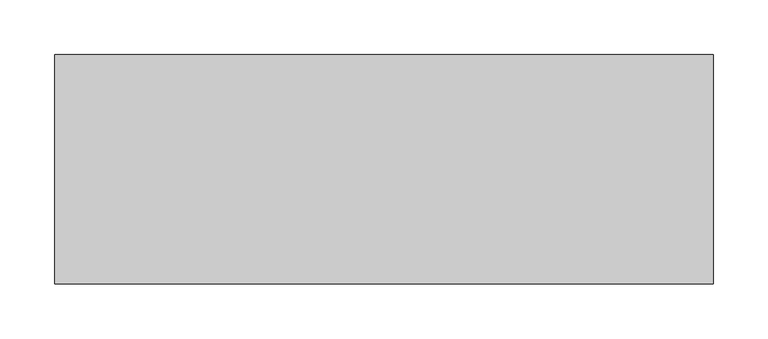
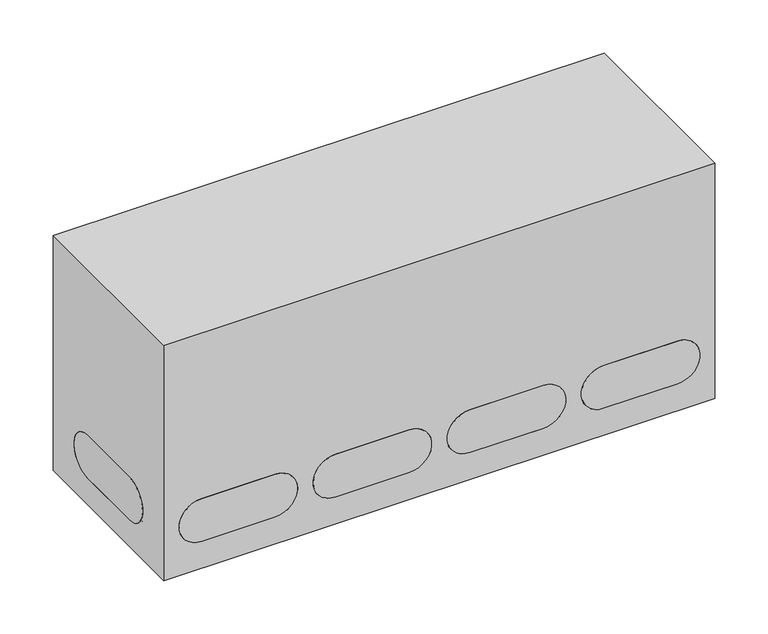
"""IFC4 building model written with IfcOpenShell, lengths in millimetres: duct fitting geometry, NLRS_57_DUF_UN_air distribution manifold oval #14_M&G : 350#14 - DN180 (H=270)."""

from ifc_helpers import new_model, si_unit, point, frame, frame_2d, origin, origin_with_axes, place, context, project, spatial, polyline, circle_curve, trimmed, segment, composite_curve, outline, extrude, source, transform, mapped, element, save
from ifc_brep_helpers import plane_surface, revolved_surface, advanced_brep


def duct_fitting_c65a407a(model_context):
    return source(origin(), model_context, "Body", "SolidModel", [
        extrude(outline(composite_curve([segment(trimmed(circle_curve(frame_2d((-179.0, 40.0)), 24.5), [point((-179.0, 64.5))], [point((-179.0, 15.5))], False, "CARTESIAN"), True, "CONTINUOUS"), segment(polyline([(-179.0, 15.5), (-259.0, 15.5)]), True, "CONTINUOUS"), segment(trimmed(circle_curve(frame_2d((-259.0, 40.0)), 24.5), [point((-259.0, 15.5))], [point((-259.0, 64.5))], False, "CARTESIAN"), True, "CONTINUOUS"), segment(polyline([(-259.0, 64.5), (-179.0, 64.5)]), True, "CONTINUOUS")], self_intersect=False)), origin_with_axes(), (0.0, 0.0, 1.0), 5.0),
        extrude(outline(composite_curve([segment(trimmed(circle_curve(frame_2d((-179.0, -40.0)), 24.5), [point((-179.0, -15.5))], [point((-179.0, -64.5))], False, "CARTESIAN"), True, "CONTINUOUS"), segment(polyline([(-179.0, -64.5), (-259.0, -64.5)]), True, "CONTINUOUS"), segment(trimmed(circle_curve(frame_2d((-259.0, -40.0)), 24.5), [point((-259.0, -64.5))], [point((-259.0, -15.5))], False, "CARTESIAN"), True, "CONTINUOUS"), segment(polyline([(-259.0, -15.5), (-179.0, -15.5)]), True, "CONTINUOUS")], self_intersect=False)), origin_with_axes(), (0.0, 0.0, 1.0), 5.0),
        extrude(outline(composite_curve([segment(trimmed(circle_curve(frame_2d((-33.0, 40.0)), 24.5), [point((-33.0, 64.5))], [point((-33.0, 15.5))], False, "CARTESIAN"), True, "CONTINUOUS"), segment(polyline([(-33.0, 15.5), (-113.0, 15.5)]), True, "CONTINUOUS"), segment(trimmed(circle_curve(frame_2d((-113.0, 40.0)), 24.5), [point((-113.0, 15.5))], [point((-113.0, 64.5))], False, "CARTESIAN"), True, "CONTINUOUS"), segment(polyline([(-113.0, 64.5), (-33.0, 64.5)]), True, "CONTINUOUS")], self_intersect=False)), origin_with_axes(), (0.0, 0.0, 1.0), 5.0),
        extrude(outline(composite_curve([segment(trimmed(circle_curve(frame_2d((-33.0, -40.0)), 24.5), [point((-33.0, -15.5))], [point((-33.0, -64.5))], False, "CARTESIAN"), True, "CONTINUOUS"), segment(polyline([(-33.0, -64.5), (-113.0, -64.5)]), True, "CONTINUOUS"), segment(trimmed(circle_curve(frame_2d((-113.0, -40.0)), 24.5), [point((-113.0, -64.5))], [point((-113.0, -15.5))], False, "CARTESIAN"), True, "CONTINUOUS"), segment(polyline([(-113.0, -15.5), (-33.0, -15.5)]), True, "CONTINUOUS")], self_intersect=False)), origin_with_axes(), (0.0, 0.0, 1.0), 5.0),
        extrude(outline(composite_curve([segment(trimmed(circle_curve(frame_2d((113.0, 40.0)), 24.5), [point((113.0, 64.5))], [point((113.0, 15.5))], False, "CARTESIAN"), True, "CONTINUOUS"), segment(polyline([(113.0, 15.5), (33.0, 15.5)]), True, "CONTINUOUS"), segment(trimmed(circle_curve(frame_2d((33.0, 40.0)), 24.5), [point((33.0, 15.5))], [point((33.0, 64.5))], False, "CARTESIAN"), True, "CONTINUOUS"), segment(polyline([(33.0, 64.5), (113.0, 64.5)]), True, "CONTINUOUS")], self_intersect=False)), origin_with_axes(), (0.0, 0.0, 1.0), 5.0),
        extrude(outline(composite_curve([segment(trimmed(circle_curve(frame_2d((113.0, -40.0)), 24.5), [point((113.0, -15.5))], [point((113.0, -64.5))], False, "CARTESIAN"), True, "CONTINUOUS"), segment(polyline([(113.0, -64.5), (33.0, -64.5)]), True, "CONTINUOUS"), segment(trimmed(circle_curve(frame_2d((33.0, -40.0)), 24.5), [point((33.0, -64.5))], [point((33.0, -15.5))], False, "CARTESIAN"), True, "CONTINUOUS"), segment(polyline([(33.0, -15.5), (113.0, -15.5)]), True, "CONTINUOUS")], self_intersect=False)), origin_with_axes(), (0.0, 0.0, 1.0), 5.0),
        extrude(outline(composite_curve([segment(trimmed(circle_curve(frame_2d((259.0, 40.0)), 24.5), [point((259.0, 64.5))], [point((259.0, 15.5))], False, "CARTESIAN"), True, "CONTINUOUS"), segment(polyline([(259.0, 15.5), (179.0, 15.5)]), True, "CONTINUOUS"), segment(trimmed(circle_curve(frame_2d((179.0, 40.0)), 24.5), [point((179.0, 15.5))], [point((179.0, 64.5))], False, "CARTESIAN"), True, "CONTINUOUS"), segment(polyline([(179.0, 64.5), (259.0, 64.5)]), True, "CONTINUOUS")], self_intersect=False)), origin_with_axes(), (0.0, 0.0, 1.0), 5.0),
        extrude(outline(composite_curve([segment(trimmed(circle_curve(frame_2d((259.0, -40.0)), 24.5), [point((259.0, -15.5))], [point((259.0, -64.5))], False, "CARTESIAN"), True, "CONTINUOUS"), segment(polyline([(259.0, -64.5), (179.0, -64.5)]), True, "CONTINUOUS"), segment(trimmed(circle_curve(frame_2d((179.0, -40.0)), 24.5), [point((179.0, -64.5))], [point((179.0, -15.5))], False, "CARTESIAN"), True, "CONTINUOUS"), segment(polyline([(179.0, -15.5), (259.0, -15.5)]), True, "CONTINUOUS")], self_intersect=False)), origin_with_axes(), (0.0, 0.0, 1.0), 5.0),
        extrude(outline(composite_curve([segment(polyline([(-40.0, 80.0), (40.0, 80.0)]), True, "CONTINUOUS"), segment(trimmed(circle_curve(frame_2d((40.0, 55.5)), 24.5), [point((40.0, 80.0))], [point((40.0, 31.0))], False, "CARTESIAN"), True, "CONTINUOUS"), segment(polyline([(40.0, 31.0), (-40.0, 31.0)]), True, "CONTINUOUS"), segment(trimmed(circle_curve(frame_2d((-40.0, 55.5)), 24.5), [point((-40.0, 31.0))], [point((-40.0, 80.0))], False, "CARTESIAN"), True, "CONTINUOUS")], self_intersect=False)), frame((-300.0, 0.0, 0.0), z_axis=(1.0, 0.0, 0.0), x_axis=(0.0, 1.0, 0.0)), (0.0, 0.0, 1.0), 5.0),
        extrude(outline(composite_curve([segment(polyline([(80.0, -179.0), (80.0, -259.0)]), True, "CONTINUOUS"), segment(trimmed(circle_curve(frame_2d((55.5, -259.0)), 24.5), [point((80.0, -259.0))], [point((31.0, -259.0))], False, "CARTESIAN"), True, "CONTINUOUS"), segment(polyline([(31.0, -259.0), (31.0, -179.0)]), True, "CONTINUOUS"), segment(trimmed(circle_curve(frame_2d((55.5, -179.0)), 24.5), [point((31.0, -179.0))], [point((80.0, -179.0))], False, "CARTESIAN"), True, "CONTINUOUS")], self_intersect=False)), frame((0.0, -104.5, 0.0), z_axis=(0.0, 1.0, 0.0), x_axis=(0.0, 0.0, 1.0)), (0.0, 0.0, 1.0), 5.0),
        extrude(outline(composite_curve([segment(polyline([(80.0, -33.0), (80.0, -113.0)]), True, "CONTINUOUS"), segment(trimmed(circle_curve(frame_2d((55.5, -113.0)), 24.5), [point((80.0, -113.0))], [point((31.0, -113.0))], False, "CARTESIAN"), True, "CONTINUOUS"), segment(polyline([(31.0, -113.0), (31.0, -33.0)]), True, "CONTINUOUS"), segment(trimmed(circle_curve(frame_2d((55.5, -33.0)), 24.5), [point((31.0, -33.0))], [point((80.0, -33.0))], False, "CARTESIAN"), True, "CONTINUOUS")], self_intersect=False)), frame((0.0, -104.5, 0.0), z_axis=(0.0, 1.0, 0.0), x_axis=(0.0, 0.0, 1.0)), (0.0, 0.0, 1.0), 5.0),
        extrude(outline(composite_curve([segment(polyline([(80.0, 113.0), (80.0, 33.0)]), True, "CONTINUOUS"), segment(trimmed(circle_curve(frame_2d((55.5, 33.0)), 24.5), [point((80.0, 33.0))], [point((31.0, 33.0))], False, "CARTESIAN"), True, "CONTINUOUS"), segment(polyline([(31.0, 33.0), (31.0, 113.0)]), True, "CONTINUOUS"), segment(trimmed(circle_curve(frame_2d((55.5, 113.0)), 24.5), [point((31.0, 113.0))], [point((80.0, 113.0))], False, "CARTESIAN"), True, "CONTINUOUS")], self_intersect=False)), frame((0.0, -104.5, 0.0), z_axis=(0.0, 1.0, 0.0), x_axis=(0.0, 0.0, 1.0)), (0.0, 0.0, 1.0), 5.0),
        extrude(outline(composite_curve([segment(polyline([(80.0, 259.0), (80.0, 179.0)]), True, "CONTINUOUS"), segment(trimmed(circle_curve(frame_2d((55.5, 179.0)), 24.5), [point((80.0, 179.0))], [point((31.0, 179.0))], False, "CARTESIAN"), True, "CONTINUOUS"), segment(polyline([(31.0, 179.0), (31.0, 259.0)]), True, "CONTINUOUS"), segment(trimmed(circle_curve(frame_2d((55.5, 259.0)), 24.5), [point((31.0, 259.0))], [point((80.0, 259.0))], False, "CARTESIAN"), True, "CONTINUOUS")], self_intersect=False)), frame((0.0, -104.5, 0.0), z_axis=(0.0, 1.0, 0.0), x_axis=(0.0, 0.0, 1.0)), (0.0, 0.0, 1.0), 5.0),
        extrude(outline(composite_curve([segment(polyline([(-40.0, 80.0), (40.0, 80.0)]), True, "CONTINUOUS"), segment(trimmed(circle_curve(frame_2d((40.0, 55.5)), 24.5), [point((40.0, 80.0))], [point((40.0, 31.0))], False, "CARTESIAN"), True, "CONTINUOUS"), segment(polyline([(40.0, 31.0), (-40.0, 31.0)]), True, "CONTINUOUS"), segment(trimmed(circle_curve(frame_2d((-40.0, 55.5)), 24.5), [point((-40.0, 31.0))], [point((-40.0, 80.0))], False, "CARTESIAN"), True, "CONTINUOUS")], self_intersect=False)), frame((295.0, 0.0, 0.0), z_axis=(1.0, 0.0, 0.0), x_axis=(0.0, 1.0, 0.0)), (0.0, 0.0, 1.0), 5.0),
        advanced_brep(
        [(300.0, 104.5, 271.0), (-300.0, 104.5, 271.0), (-300.0, -104.5, 271.0), (300.0, -104.5, 271.0), (300.0, 104.5, 0.0), (300.0, -104.5, 0.0), (-300.0, -104.5, 0.0), (-300.0, 104.5, 0.0), (-179.0, 64.5, 0.0), (-259.0, 64.5, 0.0), (-259.0, 15.5, 0.0), (-179.0, 15.5, 0.0), (-179.0, -15.5, 0.0), (-259.0, -15.5, 0.0), (-259.0, -64.5, 0.0), (-179.0, -64.5, 0.0), (-33.0, 64.5, 0.0), (-113.0, 64.5, 0.0), (-113.0, 15.5, 0.0), (-33.0, 15.5, 0.0), (-33.0, -15.5, 0.0), (-113.0, -15.5, 0.0), (-113.0, -64.5, 0.0), (-33.0, -64.5, 0.0), (113.0, 64.5, 0.0), (33.0, 64.5, 0.0), (33.0, 15.5, 0.0), (113.0, 15.5, 0.0), (113.0, -15.5, 0.0), (33.0, -15.5, 0.0), (33.0, -64.5, 0.0), (113.0, -64.5, 0.0), (259.0, 64.5, 0.0), (179.0, 64.5, 0.0), (179.0, 15.5, 0.0), (259.0, 15.5, 0.0), (259.0, -15.5, 0.0), (179.0, -15.5, 0.0), (179.0, -64.5, 0.0), (259.0, -64.5, 0.0), (-300.0, 40.0, 80.0), (-300.0, -40.0, 80.0), (-300.0, -40.0, 31.0), (-300.0, 40.0, 31.0), (-259.0, -104.5, 80.0), (-179.0, -104.5, 80.0), (-179.0, -104.5, 31.0), (-259.0, -104.5, 31.0), (-113.0, -104.5, 80.0), (-33.0, -104.5, 80.0), (-33.0, -104.5, 31.0), (-113.0, -104.5, 31.0), (33.0, -104.5, 80.0), (113.0, -104.5, 80.0), (113.0, -104.5, 31.0), (33.0, -104.5, 31.0), (179.0, -104.5, 80.0), (259.0, -104.5, 80.0), (259.0, -104.5, 31.0), (179.0, -104.5, 31.0), (300.0, -40.0, 80.0), (300.0, 40.0, 80.0), (300.0, 40.0, 31.0), (300.0, -40.0, 31.0), (-179.0, 64.5, 5.0), (-179.0, 15.5, 5.0), (-259.0, 15.5, 5.0), (-259.0, 64.5, 5.0), (-179.0, -15.5, 5.0), (-179.0, -64.5, 5.0), (-259.0, -64.5, 5.0), (-259.0, -15.5, 5.0), (-33.0, 64.5, 5.0), (-33.0, 15.5, 5.0), (-113.0, 15.5, 5.0), (-113.0, 64.5, 5.0), (-33.0, -15.5, 5.0), (-33.0, -64.5, 5.0), (-113.0, -64.5, 5.0), (-113.0, -15.5, 5.0), (113.0, 64.5, 5.0), (113.0, 15.5, 5.0), (33.0, 15.5, 5.0), (33.0, 64.5, 5.0), (113.0, -15.5, 5.0), (113.0, -64.5, 5.0), (33.0, -64.5, 5.0), (33.0, -15.5, 5.0), (259.0, 64.5, 5.0), (259.0, 15.5, 5.0), (179.0, 15.5, 5.0), (179.0, 64.5, 5.0), (259.0, -15.5, 5.0), (259.0, -64.5, 5.0), (179.0, -64.5, 5.0), (179.0, -15.5, 5.0), (-179.0, -99.5, 80.0), (-259.0, -99.5, 80.0), (-259.0, -99.5, 31.0), (-179.0, -99.5, 31.0), (-33.0, -99.5, 80.0), (-113.0, -99.5, 80.0), (-113.0, -99.5, 31.0), (-33.0, -99.5, 31.0), (113.0, -99.5, 80.0), (33.0, -99.5, 80.0), (33.0, -99.5, 31.0), (113.0, -99.5, 31.0), (259.0, -99.5, 80.0), (179.0, -99.5, 80.0), (179.0, -99.5, 31.0), (259.0, -99.5, 31.0), (294.0, -40.0, 80.0), (294.0, -40.0, 31.0), (294.0, 40.0, 31.0), (294.0, 40.0, 80.0), (-294.0, -40.0, 80.0), (-294.0, 40.0, 80.0), (-294.0, 40.0, 31.0), (-294.0, -40.0, 31.0)],
        [
            (0, 1),
            (1, 2),
            (2, 3),
            (3, 0),
            (4, 5),
            (5, 6),
            (6, 7),
            (7, 4),
            (8, 9),
            (9, 10, circle_curve(frame((-259.0, 40.0, 0.0), z_axis=(0.0, 0.0, 1.0), x_axis=(1.0, 0.0, 0.0)), 24.5)),
            (10, 11),
            (11, 8, circle_curve(frame((-179.0, 40.0, 0.0), z_axis=(0.0, 0.0, 1.0), x_axis=(1.0, 0.0, 0.0)), 24.5)),
            (12, 13),
            (13, 14, circle_curve(frame((-259.0, -40.0, 0.0), z_axis=(0.0, 0.0, 1.0), x_axis=(1.0, 0.0, 0.0)), 24.5)),
            (14, 15),
            (15, 12, circle_curve(frame((-179.0, -40.0, 0.0), z_axis=(0.0, 0.0, 1.0), x_axis=(1.0, 0.0, 0.0)), 24.5)),
            (16, 17),
            (17, 18, circle_curve(frame((-113.0, 40.0, 0.0), z_axis=(0.0, 0.0, 1.0), x_axis=(1.0, 0.0, 0.0)), 24.5)),
            (18, 19),
            (19, 16, circle_curve(frame((-33.0, 40.0, 0.0), z_axis=(0.0, 0.0, 1.0), x_axis=(1.0, 0.0, 0.0)), 24.5)),
            (20, 21),
            (21, 22, circle_curve(frame((-113.0, -40.0, 0.0), z_axis=(0.0, 0.0, 1.0), x_axis=(1.0, 0.0, 0.0)), 24.5)),
            (22, 23),
            (23, 20, circle_curve(frame((-33.0, -40.0, 0.0), z_axis=(0.0, 0.0, 1.0), x_axis=(1.0, 0.0, 0.0)), 24.5)),
            (24, 25),
            (25, 26, circle_curve(frame((33.0, 40.0, 0.0), z_axis=(0.0, 0.0, 1.0), x_axis=(1.0, 0.0, 0.0)), 24.5)),
            (26, 27),
            (27, 24, circle_curve(frame((113.0, 40.0, 0.0), z_axis=(0.0, 0.0, 1.0), x_axis=(1.0, 0.0, 0.0)), 24.5)),
            (28, 29),
            (29, 30, circle_curve(frame((33.0, -40.0, 0.0), z_axis=(0.0, 0.0, 1.0), x_axis=(1.0, 0.0, 0.0)), 24.5)),
            (30, 31),
            (31, 28, circle_curve(frame((113.0, -40.0, 0.0), z_axis=(0.0, 0.0, 1.0), x_axis=(1.0, 0.0, 0.0)), 24.5)),
            (32, 33),
            (33, 34, circle_curve(frame((179.0, 40.0, 0.0), z_axis=(0.0, 0.0, 1.0), x_axis=(1.0, 0.0, 0.0)), 24.5)),
            (34, 35),
            (35, 32, circle_curve(frame((259.0, 40.0, 0.0), z_axis=(0.0, 0.0, 1.0), x_axis=(1.0, 0.0, 0.0)), 24.5)),
            (36, 37),
            (37, 38, circle_curve(frame((179.0, -40.0, 0.0), z_axis=(0.0, 0.0, 1.0), x_axis=(1.0, 0.0, 0.0)), 24.5)),
            (38, 39),
            (39, 36, circle_curve(frame((259.0, -40.0, 0.0), z_axis=(0.0, 0.0, 1.0), x_axis=(1.0, 0.0, 0.0)), 24.5)),
            (0, 4),
            (7, 1),
            (6, 2),
            (40, 41),
            (41, 42, circle_curve(frame((-300.0, -40.0, 55.5), z_axis=(1.0, 0.0, 0.0), x_axis=(0.0, 1.0, 0.0)), 24.5)),
            (42, 43),
            (43, 40, circle_curve(frame((-300.0, 40.0, 55.5), z_axis=(1.0, 0.0, 0.0), x_axis=(0.0, 1.0, 0.0)), 24.5)),
            (5, 3),
            (44, 45),
            (45, 46, circle_curve(frame((-179.0, -104.5, 55.5), z_axis=(0.0, 1.0, 0.0), x_axis=(-1.0, 0.0, 0.0)), 24.5)),
            (46, 47),
            (47, 44, circle_curve(frame((-259.0, -104.5, 55.5), z_axis=(0.0, 1.0, 0.0), x_axis=(-1.0, 0.0, 0.0)), 24.5)),
            (48, 49),
            (49, 50, circle_curve(frame((-33.0, -104.5, 55.5), z_axis=(0.0, 1.0, 0.0), x_axis=(-1.0, 0.0, 0.0)), 24.5)),
            (50, 51),
            (51, 48, circle_curve(frame((-113.0, -104.5, 55.5), z_axis=(0.0, 1.0, 0.0), x_axis=(-1.0, 0.0, 0.0)), 24.5)),
            (52, 53),
            (53, 54, circle_curve(frame((113.0, -104.5, 55.5), z_axis=(0.0, 1.0, 0.0), x_axis=(-1.0, 0.0, 0.0)), 24.5)),
            (54, 55),
            (55, 52, circle_curve(frame((33.0, -104.5, 55.5), z_axis=(0.0, 1.0, 0.0), x_axis=(-1.0, 0.0, 0.0)), 24.5)),
            (56, 57),
            (57, 58, circle_curve(frame((259.0, -104.5, 55.5), z_axis=(0.0, 1.0, 0.0), x_axis=(-1.0, 0.0, 0.0)), 24.5)),
            (58, 59),
            (59, 56, circle_curve(frame((179.0, -104.5, 55.5), z_axis=(0.0, 1.0, 0.0), x_axis=(-1.0, 0.0, 0.0)), 24.5)),
            (60, 61),
            (61, 62, circle_curve(frame((300.0, 40.0, 55.5), z_axis=(-1.0, 0.0, 0.0), x_axis=(0.0, -1.0, 0.0)), 24.5)),
            (62, 63),
            (63, 60, circle_curve(frame((300.0, -40.0, 55.5), z_axis=(-1.0, 0.0, 0.0), x_axis=(0.0, -1.0, 0.0)), 24.5)),
            (64, 65, circle_curve(frame((-179.0, 40.0, 5.0), z_axis=(0.0, 0.0, -1.0), x_axis=(1.0, 0.0, 0.0)), 24.5)),
            (65, 66),
            (66, 67, circle_curve(frame((-259.0, 40.0, 5.0), z_axis=(0.0, 0.0, -1.0), x_axis=(1.0, 0.0, 0.0)), 24.5)),
            (67, 64),
            (68, 69, circle_curve(frame((-179.0, -40.0, 5.0), z_axis=(0.0, 0.0, -1.0), x_axis=(1.0, 0.0, 0.0)), 24.5)),
            (69, 70),
            (70, 71, circle_curve(frame((-259.0, -40.0, 5.0), z_axis=(0.0, 0.0, -1.0), x_axis=(1.0, 0.0, 0.0)), 24.5)),
            (71, 68),
            (72, 73, circle_curve(frame((-33.0, 40.0, 5.0), z_axis=(0.0, 0.0, -1.0), x_axis=(1.0, 0.0, 0.0)), 24.5)),
            (73, 74),
            (74, 75, circle_curve(frame((-113.0, 40.0, 5.0), z_axis=(0.0, 0.0, -1.0), x_axis=(1.0, 0.0, 0.0)), 24.5)),
            (75, 72),
            (76, 77, circle_curve(frame((-33.0, -40.0, 5.0), z_axis=(0.0, 0.0, -1.0), x_axis=(1.0, 0.0, 0.0)), 24.5)),
            (77, 78),
            (78, 79, circle_curve(frame((-113.0, -40.0, 5.0), z_axis=(0.0, 0.0, -1.0), x_axis=(1.0, 0.0, 0.0)), 24.5)),
            (79, 76),
            (80, 81, circle_curve(frame((113.0, 40.0, 5.0), z_axis=(0.0, 0.0, -1.0), x_axis=(1.0, 0.0, 0.0)), 24.5)),
            (81, 82),
            (82, 83, circle_curve(frame((33.0, 40.0, 5.0), z_axis=(0.0, 0.0, -1.0), x_axis=(1.0, 0.0, 0.0)), 24.5)),
            (83, 80),
            (84, 85, circle_curve(frame((113.0, -40.0, 5.0), z_axis=(0.0, 0.0, -1.0), x_axis=(1.0, 0.0, 0.0)), 24.5)),
            (85, 86),
            (86, 87, circle_curve(frame((33.0, -40.0, 5.0), z_axis=(0.0, 0.0, -1.0), x_axis=(1.0, 0.0, 0.0)), 24.5)),
            (87, 84),
            (88, 89, circle_curve(frame((259.0, 40.0, 5.0), z_axis=(0.0, 0.0, -1.0), x_axis=(1.0, 0.0, 0.0)), 24.5)),
            (89, 90),
            (90, 91, circle_curve(frame((179.0, 40.0, 5.0), z_axis=(0.0, 0.0, -1.0), x_axis=(1.0, 0.0, 0.0)), 24.5)),
            (91, 88),
            (92, 93, circle_curve(frame((259.0, -40.0, 5.0), z_axis=(0.0, 0.0, -1.0), x_axis=(1.0, 0.0, 0.0)), 24.5)),
            (93, 94),
            (94, 95, circle_curve(frame((179.0, -40.0, 5.0), z_axis=(0.0, 0.0, -1.0), x_axis=(1.0, 0.0, 0.0)), 24.5)),
            (95, 92),
            (67, 9),
            (8, 64),
            (66, 10),
            (65, 11),
            (71, 13),
            (12, 68),
            (70, 14),
            (69, 15),
            (75, 17),
            (16, 72),
            (74, 18),
            (73, 19),
            (79, 21),
            (20, 76),
            (78, 22),
            (77, 23),
            (83, 25),
            (24, 80),
            (82, 26),
            (81, 27),
            (87, 29),
            (28, 84),
            (86, 30),
            (85, 31),
            (91, 33),
            (32, 88),
            (90, 34),
            (89, 35),
            (95, 37),
            (36, 92),
            (94, 38),
            (93, 39),
            (96, 97),
            (97, 98, circle_curve(frame((-259.0, -99.5, 55.5), z_axis=(0.0, -1.0, 0.0), x_axis=(-1.0, 0.0, 0.0)), 24.5)),
            (98, 99),
            (99, 96, circle_curve(frame((-179.0, -99.5, 55.5), z_axis=(0.0, -1.0, 0.0), x_axis=(-1.0, 0.0, 0.0)), 24.5)),
            (100, 101),
            (101, 102, circle_curve(frame((-113.0, -99.5, 55.5), z_axis=(0.0, -1.0, 0.0), x_axis=(-1.0, 0.0, 0.0)), 24.5)),
            (102, 103),
            (103, 100, circle_curve(frame((-33.0, -99.5, 55.5), z_axis=(0.0, -1.0, 0.0), x_axis=(-1.0, 0.0, 0.0)), 24.5)),
            (104, 105),
            (105, 106, circle_curve(frame((33.0, -99.5, 55.5), z_axis=(0.0, -1.0, 0.0), x_axis=(-1.0, 0.0, 0.0)), 24.5)),
            (106, 107),
            (107, 104, circle_curve(frame((113.0, -99.5, 55.5), z_axis=(0.0, -1.0, 0.0), x_axis=(-1.0, 0.0, 0.0)), 24.5)),
            (108, 109),
            (109, 110, circle_curve(frame((179.0, -99.5, 55.5), z_axis=(0.0, -1.0, 0.0), x_axis=(-1.0, 0.0, 0.0)), 24.5)),
            (110, 111),
            (111, 108, circle_curve(frame((259.0, -99.5, 55.5), z_axis=(0.0, -1.0, 0.0), x_axis=(-1.0, 0.0, 0.0)), 24.5)),
            (96, 45),
            (44, 97),
            (47, 98),
            (46, 99),
            (100, 49),
            (48, 101),
            (51, 102),
            (50, 103),
            (104, 53),
            (52, 105),
            (55, 106),
            (54, 107),
            (108, 57),
            (56, 109),
            (59, 110),
            (58, 111),
            (112, 113, circle_curve(frame((294.0, -40.0, 55.5), z_axis=(1.0, 0.0, 0.0), x_axis=(0.0, -1.0, 0.0)), 24.5)),
            (113, 114),
            (114, 115, circle_curve(frame((294.0, 40.0, 55.5), z_axis=(1.0, 0.0, 0.0), x_axis=(0.0, -1.0, 0.0)), 24.5)),
            (115, 112),
            (115, 61),
            (60, 112),
            (114, 62),
            (113, 63),
            (116, 117),
            (117, 118, circle_curve(frame((-294.0, 40.0, 55.5), z_axis=(-1.0, 0.0, 0.0), x_axis=(0.0, 1.0, 0.0)), 24.5)),
            (118, 119),
            (119, 116, circle_curve(frame((-294.0, -40.0, 55.5), z_axis=(-1.0, 0.0, 0.0), x_axis=(0.0, 1.0, 0.0)), 24.5)),
            (116, 41),
            (40, 117),
            (43, 118),
            (42, 119),
        ],
        [
            plane_surface(frame((-300.0, 104.5, 271.0), z_axis=(0.0, 0.0, 1.0), x_axis=(-1.0, 0.0, 0.0))),
            plane_surface(frame((-300.0, 104.5, 0.0), z_axis=(0.0, 0.0, -1.0), x_axis=(1.0, 0.0, 0.0))),
            plane_surface(frame((300.0, 104.5, 271.0), z_axis=(0.0, 1.0, 0.0), x_axis=(0.0, 0.0, -1.0))),
            plane_surface(frame((-300.0, 104.5, 271.0), z_axis=(-1.0, 0.0, 0.0), x_axis=(0.0, 0.0, -1.0))),
            plane_surface(frame((-300.0, -104.5, 271.0), z_axis=(0.0, -1.0, 0.0), x_axis=(0.0, 0.0, -1.0))),
            plane_surface(frame((300.0, -104.5, 271.0), z_axis=(1.0, 0.0, 0.0), x_axis=(0.0, 0.0, -1.0))),
            plane_surface(frame((-259.0, 64.5, 5.0), z_axis=(0.0, 0.0, -1.0), x_axis=(-1.0, 0.0, 0.0))),
            plane_surface(frame((-179.0, 64.5, 5.0), z_axis=(0.0, -1.0, 0.0), x_axis=(0.0, 0.0, -1.0))),
            revolved_surface(polyline([(-234.5, 40.0, 5.0), (-234.5, 40.0, 0.0)]), (-259.0, 40.0, 0.0), (0.0, 0.0, 1.0)),
            plane_surface(frame((-259.0, 15.5, 5.0), z_axis=(0.0, 1.0, 0.0), x_axis=(0.0, 0.0, -1.0))),
            revolved_surface(polyline([(-154.5, 40.0, 5.0), (-154.5, 40.0, 0.0)]), (-179.0, 40.0, 0.0), (0.0, 0.0, 1.0)),
            plane_surface(frame((-179.0, -15.5, 5.0), z_axis=(0.0, -1.0, 0.0), x_axis=(0.0, 0.0, -1.0))),
            revolved_surface(polyline([(-234.5, -40.0, 5.0), (-234.5, -40.0, 0.0)]), (-259.0, -40.0, 0.0), (0.0, 0.0, 1.0)),
            plane_surface(frame((-259.0, -64.5, 5.0), z_axis=(0.0, 1.0, 0.0), x_axis=(0.0, 0.0, -1.0))),
            revolved_surface(polyline([(-154.5, -40.0, 5.0), (-154.5, -40.0, 0.0)]), (-179.0, -40.0, 0.0), (0.0, 0.0, 1.0)),
            plane_surface(frame((-33.0, 64.5, 5.0), z_axis=(0.0, -1.0, 0.0), x_axis=(0.0, 0.0, -1.0))),
            revolved_surface(polyline([(-88.5, 40.0, 5.0), (-88.5, 40.0, 0.0)]), (-113.0, 40.0, 0.0), (0.0, 0.0, 1.0)),
            plane_surface(frame((-113.0, 15.5, 5.0), z_axis=(0.0, 1.0, 0.0), x_axis=(0.0, 0.0, -1.0))),
            revolved_surface(polyline([(-8.5, 40.0, 5.0), (-8.5, 40.0, 0.0)]), (-33.0, 40.0, 0.0), (0.0, 0.0, 1.0)),
            plane_surface(frame((-33.0, -15.5, 5.0), z_axis=(0.0, -1.0, 0.0), x_axis=(0.0, 0.0, -1.0))),
            revolved_surface(polyline([(-88.5, -40.0, 5.0), (-88.5, -40.0, 0.0)]), (-113.0, -40.0, 0.0), (0.0, 0.0, 1.0)),
            plane_surface(frame((-113.0, -64.5, 5.0), z_axis=(0.0, 1.0, 0.0), x_axis=(0.0, 0.0, -1.0))),
            revolved_surface(polyline([(-8.5, -40.0, 5.0), (-8.5, -40.0, 0.0)]), (-33.0, -40.0, 0.0), (0.0, 0.0, 1.0)),
            plane_surface(frame((113.0, 64.5, 5.0), z_axis=(0.0, -1.0, 0.0), x_axis=(0.0, 0.0, -1.0))),
            revolved_surface(polyline([(57.5, 40.0, 5.0), (57.5, 40.0, 0.0)]), (33.0, 40.0, 0.0), (0.0, 0.0, 1.0)),
            plane_surface(frame((33.0, 15.5, 5.0), z_axis=(0.0, 1.0, 0.0), x_axis=(0.0, 0.0, -1.0))),
            revolved_surface(polyline([(137.5, 40.0, 5.0), (137.5, 40.0, 0.0)]), (113.0, 40.0, 0.0), (0.0, 0.0, 1.0)),
            plane_surface(frame((113.0, -15.5, 5.0), z_axis=(0.0, -1.0, 0.0), x_axis=(0.0, 0.0, -1.0))),
            revolved_surface(polyline([(57.5, -40.0, 5.0), (57.5, -40.0, 0.0)]), (33.0, -40.0, 0.0), (0.0, 0.0, 1.0)),
            plane_surface(frame((33.0, -64.5, 5.0), z_axis=(0.0, 1.0, 0.0), x_axis=(0.0, 0.0, -1.0))),
            revolved_surface(polyline([(137.5, -40.0, 5.0), (137.5, -40.0, 0.0)]), (113.0, -40.0, 0.0), (0.0, 0.0, 1.0)),
            plane_surface(frame((259.0, 64.5, 5.0), z_axis=(0.0, -1.0, 0.0), x_axis=(0.0, 0.0, -1.0))),
            revolved_surface(polyline([(203.5, 40.0, 5.0), (203.5, 40.0, 0.0)]), (179.0, 40.0, 0.0), (0.0, 0.0, 1.0)),
            plane_surface(frame((179.0, 15.5, 5.0), z_axis=(0.0, 1.0, 0.0), x_axis=(0.0, 0.0, -1.0))),
            revolved_surface(polyline([(283.5, 40.0, 5.0), (283.5, 40.0, 0.0)]), (259.0, 40.0, 0.0), (0.0, 0.0, 1.0)),
            plane_surface(frame((259.0, -15.5, 5.0), z_axis=(0.0, -1.0, 0.0), x_axis=(0.0, 0.0, -1.0))),
            revolved_surface(polyline([(203.5, -40.0, 5.0), (203.5, -40.0, 0.0)]), (179.0, -40.0, 0.0), (0.0, 0.0, 1.0)),
            plane_surface(frame((179.0, -64.5, 5.0), z_axis=(0.0, 1.0, 0.0), x_axis=(0.0, 0.0, -1.0))),
            revolved_surface(polyline([(283.5, -40.0, 5.0), (283.5, -40.0, 0.0)]), (259.0, -40.0, 0.0), (0.0, 0.0, 1.0)),
            plane_surface(frame((-203.5, -99.5, 55.5), z_axis=(0.0, -1.0, 0.0), x_axis=(0.0, 0.0, 1.0))),
            plane_surface(frame((-259.0, -99.5, 80.0), z_axis=(0.0, 0.0, -1.0), x_axis=(0.0, -1.0, 0.0))),
            revolved_surface(polyline([(-283.5, -99.5, 55.5), (-283.5, -104.5, 55.5)]), (-259.0, -104.5, 55.5), (0.0, 1.0, 0.0)),
            plane_surface(frame((-179.0, -99.5, 31.0), z_axis=(0.0, 0.0, 1.0), x_axis=(0.0, -1.0, 0.0))),
            revolved_surface(polyline([(-203.5, -99.5, 55.5), (-203.5, -104.5, 55.5)]), (-179.0, -104.5, 55.5), (0.0, 1.0, 0.0)),
            plane_surface(frame((-113.0, -99.5, 80.0), z_axis=(0.0, 0.0, -1.0), x_axis=(0.0, -1.0, 0.0))),
            revolved_surface(polyline([(-137.5, -99.5, 55.5), (-137.5, -104.5, 55.5)]), (-113.0, -104.5, 55.5), (0.0, 1.0, 0.0)),
            plane_surface(frame((-33.0, -99.5, 31.0), z_axis=(0.0, 0.0, 1.0), x_axis=(0.0, -1.0, 0.0))),
            revolved_surface(polyline([(-57.5, -99.5, 55.5), (-57.5, -104.5, 55.5)]), (-33.0, -104.5, 55.5), (0.0, 1.0, 0.0)),
            plane_surface(frame((33.0, -99.5, 80.0), z_axis=(0.0, 0.0, -1.0), x_axis=(0.0, -1.0, 0.0))),
            revolved_surface(polyline([(8.5, -99.5, 55.5), (8.5, -104.5, 55.5)]), (33.0, -104.5, 55.5), (0.0, 1.0, 0.0)),
            plane_surface(frame((113.0, -99.5, 31.0), z_axis=(0.0, 0.0, 1.0), x_axis=(0.0, -1.0, 0.0))),
            revolved_surface(polyline([(88.5, -99.5, 55.5), (88.5, -104.5, 55.5)]), (113.0, -104.5, 55.5), (0.0, 1.0, 0.0)),
            plane_surface(frame((179.0, -99.5, 80.0), z_axis=(0.0, 0.0, -1.0), x_axis=(0.0, -1.0, 0.0))),
            revolved_surface(polyline([(154.5, -99.5, 55.5), (154.5, -104.5, 55.5)]), (179.0, -104.5, 55.5), (0.0, 1.0, 0.0)),
            plane_surface(frame((259.0, -99.5, 31.0), z_axis=(0.0, 0.0, 1.0), x_axis=(0.0, -1.0, 0.0))),
            revolved_surface(polyline([(234.5, -99.5, 55.5), (234.5, -104.5, 55.5)]), (259.0, -104.5, 55.5), (0.0, 1.0, 0.0)),
            plane_surface(frame((294.0, 40.0, 80.0), z_axis=(1.0, 0.0, 0.0), x_axis=(0.0, 1.0, 0.0))),
            plane_surface(frame((294.0, -40.0, 80.0), z_axis=(0.0, 0.0, -1.0), x_axis=(1.0, 0.0, 0.0))),
            revolved_surface(polyline([(294.0, 15.5, 55.5), (300.0, 15.5, 55.5)]), (300.0, 40.0, 55.5), (-1.0, 0.0, 0.0)),
            plane_surface(frame((294.0, 40.0, 31.0), z_axis=(0.0, 0.0, 1.0), x_axis=(1.0, 0.0, 0.0))),
            revolved_surface(polyline([(294.0, -64.5, 55.5), (300.0, -64.5, 55.5)]), (300.0, -40.0, 55.5), (-1.0, 0.0, 0.0)),
            plane_surface(frame((-294.0, -15.5, 55.5), z_axis=(-1.0, 0.0, 0.0), x_axis=(0.0, 0.0, 1.0))),
            plane_surface(frame((-294.0, 40.0, 80.0), z_axis=(0.0, 0.0, -1.0), x_axis=(-1.0, 0.0, 0.0))),
            revolved_surface(polyline([(-294.0, 64.5, 55.5), (-300.0, 64.5, 55.5)]), (-300.0, 40.0, 55.5), (1.0, 0.0, 0.0)),
            plane_surface(frame((-294.0, -40.0, 31.0), z_axis=(0.0, 0.0, 1.0), x_axis=(-1.0, 0.0, 0.0))),
            revolved_surface(polyline([(-294.0, -15.5, 55.5), (-300.0, -15.5, 55.5)]), (-300.0, -40.0, 55.5), (1.0, 0.0, 0.0)),
        ],
        [
            (0, [[1, 2, 3, 4]]),
            (1, [[5, 6, 7, 8], [9, 10, 11, 12], [13, 14, 15, 16], [17, 18, 19, 20], [21, 22, 23, 24], [25, 26, 27, 28], [29, 30, 31, 32], [33, 34, 35, 36], [37, 38, 39, 40]]),
            (2, [[-1, 41, -8, 42]]),
            (3, [[-2, -42, -7, 43], [44, 45, 46, 47]]),
            (4, [[-3, -43, -6, 48], [49, 50, 51, 52], [53, 54, 55, 56], [57, 58, 59, 60], [61, 62, 63, 64]]),
            (5, [[-4, -48, -5, -41], [65, 66, 67, 68]]),
            (6, [[69, 70, 71, 72]]),
            (6, [[73, 74, 75, 76]]),
            (6, [[77, 78, 79, 80]]),
            (6, [[81, 82, 83, 84]]),
            (6, [[85, 86, 87, 88]]),
            (6, [[89, 90, 91, 92]]),
            (6, [[93, 94, 95, 96]]),
            (6, [[97, 98, 99, 100]]),
            (7, [[-72, 101, -9, 102]]),
            (8, [[-71, 103, -10, -101]]),
            (9, [[-70, 104, -11, -103]]),
            (10, [[-69, -102, -12, -104]]),
            (11, [[-76, 105, -13, 106]]),
            (12, [[-75, 107, -14, -105]]),
            (13, [[-74, 108, -15, -107]]),
            (14, [[-73, -106, -16, -108]]),
            (15, [[-80, 109, -17, 110]]),
            (16, [[-79, 111, -18, -109]]),
            (17, [[-78, 112, -19, -111]]),
            (18, [[-77, -110, -20, -112]]),
            (19, [[-84, 113, -21, 114]]),
            (20, [[-83, 115, -22, -113]]),
            (21, [[-82, 116, -23, -115]]),
            (22, [[-81, -114, -24, -116]]),
            (23, [[-88, 117, -25, 118]]),
            (24, [[-87, 119, -26, -117]]),
            (25, [[-86, 120, -27, -119]]),
            (26, [[-85, -118, -28, -120]]),
            (27, [[-92, 121, -29, 122]]),
            (28, [[-91, 123, -30, -121]]),
            (29, [[-90, 124, -31, -123]]),
            (30, [[-89, -122, -32, -124]]),
            (31, [[-96, 125, -33, 126]]),
            (32, [[-95, 127, -34, -125]]),
            (33, [[-94, 128, -35, -127]]),
            (34, [[-93, -126, -36, -128]]),
            (35, [[-100, 129, -37, 130]]),
            (36, [[-99, 131, -38, -129]]),
            (37, [[-98, 132, -39, -131]]),
            (38, [[-97, -130, -40, -132]]),
            (39, [[133, 134, 135, 136]]),
            (39, [[137, 138, 139, 140]]),
            (39, [[141, 142, 143, 144]]),
            (39, [[145, 146, 147, 148]]),
            (40, [[-133, 149, -49, 150]]),
            (41, [[-134, -150, -52, 151]]),
            (42, [[-135, -151, -51, 152]]),
            (43, [[-136, -152, -50, -149]]),
            (44, [[-137, 153, -53, 154]]),
            (45, [[-138, -154, -56, 155]]),
            (46, [[-139, -155, -55, 156]]),
            (47, [[-140, -156, -54, -153]]),
            (48, [[-141, 157, -57, 158]]),
            (49, [[-142, -158, -60, 159]]),
            (50, [[-143, -159, -59, 160]]),
            (51, [[-144, -160, -58, -157]]),
            (52, [[-145, 161, -61, 162]]),
            (53, [[-146, -162, -64, 163]]),
            (54, [[-147, -163, -63, 164]]),
            (55, [[-148, -164, -62, -161]]),
            (56, [[165, 166, 167, 168]]),
            (57, [[-168, 169, -65, 170]]),
            (58, [[-167, 171, -66, -169]]),
            (59, [[-166, 172, -67, -171]]),
            (60, [[-165, -170, -68, -172]]),
            (61, [[173, 174, 175, 176]]),
            (62, [[-173, 177, -44, 178]]),
            (63, [[-174, -178, -47, 179]]),
            (64, [[-175, -179, -46, 180]]),
            (65, [[-176, -180, -45, -177]]),
        ],
    ),
    ])


if __name__ == "__main__":
    model = new_model("IFC4")
    model_context = context("Model", 3, world=origin())
    ifc_project = project(units=[si_unit("LENGTHUNIT", "METRE", prefix="MILLI")], contexts=[model_context])
    site = spatial("IfcSite", under=ifc_project)
    building = spatial("IfcBuilding", under=site)
    placement = place(None, origin())
    duct_fitting_shape = duct_fitting_c65a407a(model_context)
    element("IfcDuctFitting", 1, ObjectType="NLRS_57_DUF_UN_air distribution manifold oval #14_M&G : 350#14 - DN180 (H=270)", at=placement, inside=building, context=model_context, shape_type="MappedRepresentation", body=[
        mapped(duct_fitting_shape, transform((0.0, 0.0, 0.0), x_axis=(1.0, 0.0, 0.0), y_axis=(0.0, 1.0, 0.0), z_axis=(0.0, 0.0, 1.0))),
    ])
    save(model, "model.ifc")
